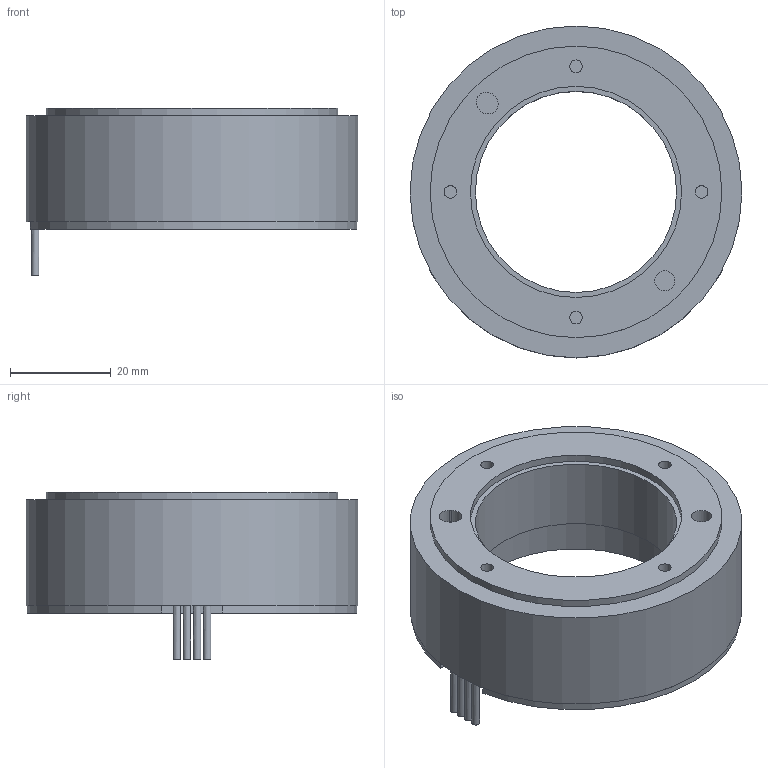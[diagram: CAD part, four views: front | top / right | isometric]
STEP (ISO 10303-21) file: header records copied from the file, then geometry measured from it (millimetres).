
FILE_DESCRIPTION(/* description */ (''),/* implementation_level */ '2;1');
FILE_NAME(/* name */ 'DM6624_02.stp',/* time_stamp */ '2020-03-11T14:29:04+01:00',/* author */ ('DR. FRITZ FAULHABER GmbH & Co. KG'),/* organization */ ('DR. FRITZ FAULHABER GmbH & Co. KG'),/* preprocessor_version */ 'ST-DEVELOPER v16.7',/* originating_system */ 'SIEMENS PLM Software NX 12.0',/* authorisation */ '');
FILE_SCHEMA (('AUTOMOTIVE_DESIGN { 1 0 10303 214 3 1 1 1 }'));
Length unit declared in the file: millimetre
Products named in the file (1): H00002346-A-6624.0H002
Bounding box: 66 x 66 x 33.25 mm (x, y, z)
Volume: 47700.1 mm3; surface area: 12872.6 mm2
Topology: 1 solids, 1 shells, 56 faces, 99 edges, 66 vertices
Faces by surface type: plane 28, cylinder 20, bspline 8
Full cylindrical faces by diameter (mm): 1.25 x6, 2.5 x4, 4 x1, 40 x1, 42 x1, 44 x1, 58 x2, 66 x1
Entity records: 2218 total; most frequent: CARTESIAN_POINT 1217, DIRECTION 204, ORIENTED_EDGE 148, EDGE_LOOP 100, AXIS2_PLACEMENT_3D 93, EDGE_CURVE 74, FACE_BOUND 72, VERTEX_POINT 62
